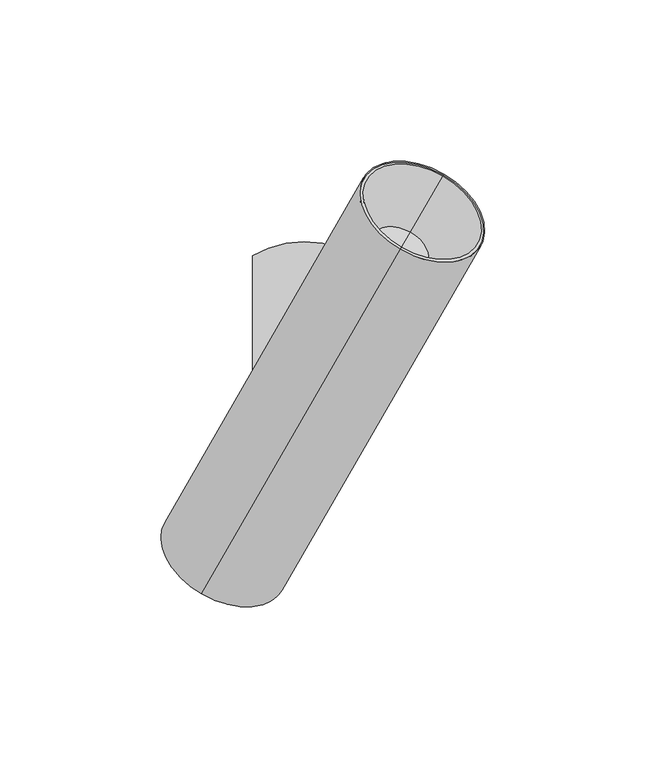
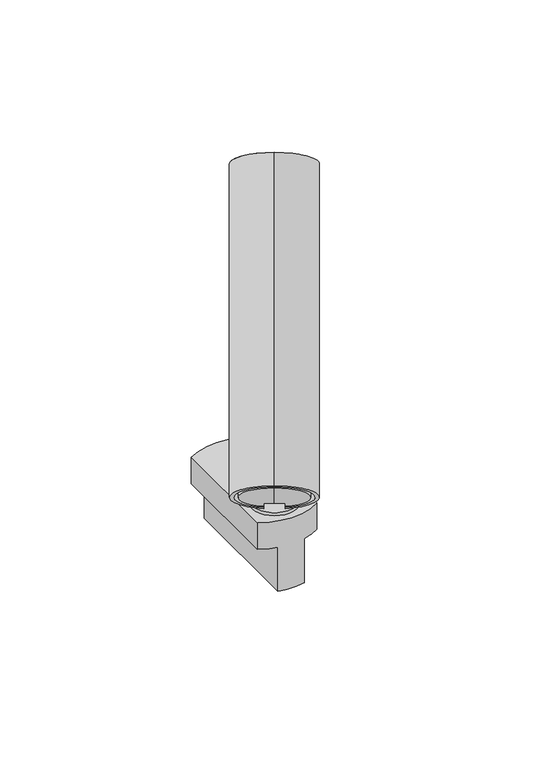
"""IFC4 building model written with IfcOpenShell, lengths in millimetres: light fixture geometry, PIPES T XS : 490lm 7,8W 930 38°."""

from ifc_helpers import new_model, si_unit, point, frame, frame_2d, origin, origin_2d, place, context, project, spatial, polyline, circle_curve, trimmed, segment, composite_curve, outline, extrude, source, transform, mapped, element, save
from ifc_brep_helpers import plane_surface, cylinder_surface, revolved_surface, advanced_brep


def light_fixture_c1229501(model_context):
    return source(origin(), model_context, "Body", "SolidModel", [
        extrude(outline(composite_curve([segment(polyline([(39.7303383, 0.0), (39.7303383, -8.0), (36.7303383, -8.0), (36.7303383, -10.0), (-21.31827, -10.0), (-21.31827, -2.0)]), True, "CONTINUOUS"), segment(trimmed(circle_curve(frame_2d((-15.691322, -2.0)), 5.626948), [point((-21.31827, -2.0))], [point((-15.691322, 3.626948))], False, "CARTESIAN"), True, "CONTINUOUS"), segment(polyline([(-15.691322, 3.626948), (-9.8735653, 3.626948)]), True, "CONTINUOUS"), segment(trimmed(circle_curve(frame_2d((-17.7182036, -2.2388678)), 9.7952104), [point((-9.8735653, 3.626948))], [point((-8.1822916, 0.0))], False, "CARTESIAN"), True, "CONTINUOUS"), segment(polyline([(-8.1822916, 0.0), (39.7303383, 0.0)]), True, "CONTINUOUS")], self_intersect=False)), frame((1.830127, -6.830127, 56.5303383), z_axis=(-0.8660254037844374, 0.5000000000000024, 0.0), x_axis=(0.0, 0.0, -1.0)), (0.0, 0.0, 1.0), 10.0),
        extrude(outline(composite_curve([segment(trimmed(circle_curve(origin_2d(), 12.5), [point((-10.8253175, 6.25))], [point((10.8253175, -6.25))], False, "CARTESIAN"), True, "CONTINUOUS"), segment(trimmed(circle_curve(origin_2d(), 12.5), [point((10.8253175, -6.25))], [point((-10.8253175, 6.25))], False, "CARTESIAN"), True, "CONTINUOUS")], self_intersect=False)), frame((0.0, 0.0, 15.0), z_axis=(0.0, 0.0, 1.0), x_axis=(1.0, 0.0, 0.0)), (0.0, 0.0, 1.0), 1.8),
        advanced_brep(
        [(-7.1153658, -15.2862846, -25.0), (-7.1153658, 53.3498174, -25.0), (7.1153658, 53.3498174, -25.0), (7.1153658, -15.2862846, -25.0), (-16.1153658, 49.7317664, 15.0), (-16.1153658, -11.6682336, 15.0), (16.1153658, -11.6682336, 15.0), (16.1153658, 49.7317664, 15.0), (-16.1153658, 49.7317664, 0.0), (-16.1153658, -11.6682336, 0.0), (-7.1153658, -15.2862846, 0.0), (7.1153658, -15.2862846, 0.0), (16.1153658, -11.6682336, 0.0), (16.1153658, 49.7317664, 0.0), (7.1153658, 53.3498174, 0.0), (-7.1153658, 53.3498174, 0.0)],
        [
            (0, 1),
            (1, 2, circle_curve(frame((0.0, 22.6472542, -25.0), z_axis=(0.0, 0.0, -1.0), x_axis=(1.0, 0.0, 0.0)), 31.5162786)),
            (2, 3),
            (3, 0, circle_curve(frame((0.0, 15.4162786, -25.0), z_axis=(0.0, 0.0, -1.0), x_axis=(1.0, 0.0, 0.0)), 31.5162786)),
            (4, 5),
            (5, 6, circle_curve(frame((0.0, 15.4162786, 15.0), z_axis=(0.0, 0.0, 1.0), x_axis=(1.0, 0.0, 0.0)), 31.5162786)),
            (6, 7),
            (7, 4, circle_curve(frame((0.0, 22.6472542, 15.0), z_axis=(0.0, 0.0, 1.0), x_axis=(1.0, 0.0, 0.0)), 31.5162786)),
            (4, 8),
            (8, 9),
            (9, 5),
            (9, 10, circle_curve(frame((0.0, 15.4162786, 0.0), z_axis=(0.0, 0.0, 1.0), x_axis=(1.0, 0.0, 0.0)), 31.5162786)),
            (10, 0),
            (3, 11),
            (11, 12, circle_curve(frame((0.0, 15.4162786, 0.0), z_axis=(0.0, 0.0, 1.0), x_axis=(1.0, 0.0, 0.0)), 31.5162786)),
            (12, 6),
            (12, 13),
            (13, 7),
            (13, 14, circle_curve(frame((0.0, 22.6472542, 0.0), z_axis=(0.0, 0.0, 1.0), x_axis=(1.0, 0.0, 0.0)), 31.5162786)),
            (14, 2),
            (1, 15),
            (15, 8, circle_curve(frame((0.0, 22.6472542, 0.0), z_axis=(0.0, 0.0, 1.0), x_axis=(1.0, 0.0, 0.0)), 31.5162786)),
            (15, 10),
            (11, 14),
        ],
        [
            plane_surface(frame((-16.1153658, -11.6883244, -25.0), z_axis=(0.0, 0.0, -1.0), x_axis=(0.0, 1.0, 0.0))),
            plane_surface(frame((-16.1153658, -11.6883244, 15.0), z_axis=(0.0, 0.0, 1.0), x_axis=(0.0, -1.0, 0.0))),
            plane_surface(frame((-16.1153658, 49.7317664, 15.0), z_axis=(-1.0, 0.0, 0.0), x_axis=(0.0, 0.0, -1.0))),
            cylinder_surface(frame((0.0, 15.4162786, -25.0), z_axis=(0.0, 0.0, 1.0), x_axis=(1.0, 0.0, 0.0)), 31.5162786),
            plane_surface(frame((16.1153658, -11.6682336, 15.0), z_axis=(1.0, 0.0, 0.0), x_axis=(0.0, 0.0, -1.0))),
            cylinder_surface(frame((0.0, 22.6472542, -25.0), z_axis=(0.0, 0.0, 1.0), x_axis=(1.0, 0.0, 0.0)), 31.5162786),
            plane_surface(frame((-7.1153658, 58.6979838, 0.0), z_axis=(0.0, 0.0, -1.0), x_axis=(-1.0, 0.0, 0.0))),
            plane_surface(frame((-7.1153658, -21.3020162, 0.0), z_axis=(-1.0, 0.0, 0.0), x_axis=(0.0, 0.0, -1.0))),
            plane_surface(frame((7.1153658, -11.6883244, 0.0), z_axis=(0.0, 0.0, -1.0), x_axis=(0.0, -1.0, 0.0))),
            plane_surface(frame((7.1153658, 58.6979838, 0.0), z_axis=(1.0, 0.0, 0.0), x_axis=(0.0, 0.0, -1.0))),
        ],
        [
            (0, [[1, 2, 3, 4]]),
            (1, [[5, 6, 7, 8]]),
            (2, [[-5, 9, 10, 11]]),
            (3, [[-6, -11, 12, 13, -4, 14, 15, 16]]),
            (4, [[-7, -16, 17, 18]]),
            (5, [[-8, -18, 19, 20, -2, 21, 22, -9]]),
            (6, [[23, -12, -10, -22]]),
            (7, [[-23, -21, -1, -13]]),
            (8, [[24, -19, -17, -15]]),
            (9, [[-24, -14, -3, -20]]),
        ],
    ),
        advanced_brep(
        [(-4.0219849, 3.0337177, 80.0441603), (-23.5561182, -30.8003936, 47.2619922), (-21.2002043, -26.719831, 41.6466545), (-23.4983377, -30.7003147, 37.7899288), (-22.8344103, -29.5503588, 36.2074531), (-1.0021437, 8.2642363, 72.8463469), (4.6382691, -1.9662823, 80.0441603), (7.6581104, 3.2642363, 72.8463469), (-14.1741562, -34.5503588, 36.2074531), (-14.8380836, -35.7003147, 37.7899288), (-12.5399503, -31.719831, 41.6466545), (-14.8958642, -35.8003936, 47.2619922), (-19.2259912, -33.3003936, 47.2619922), (3.5220801, 6.1004217, 72.3837158), (43.3563912, 75.0954723, 139.2336272), (29.8578514, 51.7153156, 171.4074939), (-31.8087263, -55.0943301, 67.9186887), (-31.1659387, -53.9809893, 66.3865998), (-28.8678054, -50.0005056, 70.2433255), (-22.7613231, -39.423768, 55.688481), (26.3072721, 45.5655319, 151.0894342), (32.7351482, 56.6989399, 135.7685453), (29.5212102, 51.1322359, 143.4289898)],
        [
            (0, 1),
            (1, 2),
            (2, 3),
            (3, 4),
            (4, 5),
            (5, 0),
            (6, 7),
            (7, 8),
            (8, 9),
            (9, 10),
            (10, 11),
            (11, 6),
            (0, 6),
            (11, 12),
            (12, 1),
            (5, 13, circle_curve(frame((-3.2271898, -5.5896566, 88.4706491), z_axis=(-0.38302222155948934, -0.6634139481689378, -0.6427876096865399), x_axis=(0.3213938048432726, 0.5566703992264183, -0.7660444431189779)), 21.0)),
            (13, 7, circle_curve(frame((-3.2271898, -5.5896566, 88.4706491), z_axis=(-0.38302222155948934, -0.6634139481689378, -0.6427876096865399), x_axis=(0.3213938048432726, 0.5566703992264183, -0.7660444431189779)), 21.0)),
            (14, 15, circle_curve(frame((36.6071213, 63.405394, 155.3205605), z_axis=(-0.38302222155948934, -0.6634139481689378, -0.6427876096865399), x_axis=(0.3213938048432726, 0.5566703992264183, -0.7660444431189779)), 21.0)),
            (15, 16),
            (16, 8, circle_curve(frame((-25.0594564, -43.4042517, 51.8317554), z_axis=(0.38302222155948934, 0.6634139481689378, 0.6427876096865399), x_axis=(0.3213938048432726, 0.5566703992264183, -0.7660444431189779)), 21.0)),
            (13, 14),
            (15, 14, circle_curve(frame((36.6071213, 63.405394, 155.3205605), z_axis=(-0.38302222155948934, -0.6634139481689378, -0.6427876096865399), x_axis=(0.3213938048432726, 0.5566703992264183, -0.7660444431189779)), 21.0)),
            (4, 16, circle_curve(frame((-25.0594564, -43.4042517, 51.8317554), z_axis=(0.38302222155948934, 0.6634139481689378, 0.6427876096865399), x_axis=(0.3213938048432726, 0.5566703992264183, -0.7660444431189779)), 21.0)),
            (16, 17),
            (17, 9, circle_curve(frame((-25.0594564, -43.4042517, 51.8317554), z_axis=(0.38302222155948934, 0.6634139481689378, 0.6427876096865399), x_axis=(0.3213938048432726, 0.5566703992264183, -0.7660444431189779)), 19.0)),
            (3, 17, circle_curve(frame((-25.0594564, -43.4042517, 51.8317554), z_axis=(0.38302222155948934, 0.6634139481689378, 0.6427876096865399), x_axis=(0.3213938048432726, 0.5566703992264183, -0.7660444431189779)), 19.0)),
            (17, 18),
            (18, 10, circle_curve(frame((-22.7613231, -39.423768, 55.688481), z_axis=(0.38302222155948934, 0.6634139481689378, 0.6427876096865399), x_axis=(0.3213938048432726, 0.5566703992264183, -0.7660444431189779)), 19.0)),
            (2, 18, circle_curve(frame((-22.7613231, -39.423768, 55.688481), z_axis=(0.38302222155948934, 0.6634139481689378, 0.6427876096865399), x_axis=(0.3213938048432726, 0.5566703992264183, -0.7660444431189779)), 19.0)),
            (18, 19),
            (19, 12),
            (20, 21, circle_curve(frame((29.5212102, 51.1322359, 143.4289898), z_axis=(0.38302222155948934, 0.6634139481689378, 0.6427876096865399), x_axis=(0.3213938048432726, 0.5566703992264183, -0.7660444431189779)), 10.0)),
            (21, 22),
            (22, 20),
            (21, 20, circle_curve(frame((29.5212102, 51.1322359, 143.4289898), z_axis=(0.38302222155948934, 0.6634139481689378, 0.6427876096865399), x_axis=(0.3213938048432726, 0.5566703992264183, -0.7660444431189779)), 10.0)),
            (14, 21),
            (20, 15),
        ],
        [
            plane_surface(frame((-4.0219849, 3.0337177, 80.0441603), z_axis=(0.8660254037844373, -0.5000000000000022, 0.0), x_axis=(0.3830222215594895, 0.6634139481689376, 0.6427876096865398))),
            plane_surface(frame((4.6382691, -1.9662823, 80.0441603), z_axis=(-0.8660254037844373, 0.5000000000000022, 0.0), x_axis=(-0.3830222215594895, -0.6634139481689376, -0.6427876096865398))),
            plane_surface(frame((4.6382691, -1.9662823, 80.0441603), z_axis=(0.3213938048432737, 0.5566703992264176, -0.7660444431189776), x_axis=(-0.8660254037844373, 0.5000000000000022, 0.0))),
            plane_surface(frame((11.0661452, 9.1671257, 64.7232714), z_axis=(-0.38302222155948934, -0.6634139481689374, -0.6427876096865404), x_axis=(-0.8660254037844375, 0.5000000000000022, 0.0))),
            cylinder_surface(frame((-28.2969061, -49.0116791, 46.3986696), z_axis=(-0.38302222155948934, -0.6634139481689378, -0.6427876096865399), x_axis=(0.3213938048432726, 0.5566703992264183, -0.7660444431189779)), 21.0),
            plane_surface(frame((-25.0594564, -43.4042517, 51.8317554), z_axis=(-0.38302222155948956, -0.6634139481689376, -0.6427876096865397), x_axis=(0.32139380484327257, 0.5566703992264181, -0.7660444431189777))),
            revolved_surface(polyline([(-18.952974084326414, -32.827514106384, 37.27691091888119), (-16.65484072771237, -28.84703037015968, 41.13363662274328)]), (-28.2969061, -49.0116791, 46.3986696), (-0.38302222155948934, -0.6634139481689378, -0.6427876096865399)),
            revolved_surface(polyline([(-18.952974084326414, -32.827514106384, 37.27691091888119), (-16.654840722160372, -28.84703036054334, 41.13363663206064)]), (-28.2969061, -49.0116791, 46.3986696), (-0.38302222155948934, -0.6634139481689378, -0.6427876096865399)),
            plane_surface(frame((-22.7613231, -39.423768, 55.688481), z_axis=(-0.38302222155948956, -0.6634139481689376, -0.6427876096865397), x_axis=(0.32139380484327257, 0.5566703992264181, -0.7660444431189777))),
            plane_surface(frame((29.5212102, 51.1322359, 143.4289898), z_axis=(0.38302222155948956, 0.6634139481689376, 0.6427876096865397), x_axis=(0.32139380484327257, 0.5566703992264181, -0.7660444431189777))),
            revolved_surface(polyline([(32.7351482, 56.6989399, 135.7685453), (43.3563912, 75.0954723, 139.2336272)]), (-28.2969061, -49.0116791, 46.3986696), (-0.38302222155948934, -0.6634139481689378, -0.6427876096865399)),
        ],
        [
            (0, [[1, 2, 3, 4, 5, 6]]),
            (1, [[7, 8, 9, 10, 11, 12]]),
            (2, [[13, -12, 14, 15, -1]]),
            (3, [[-13, -6, 16, 17, -7]]),
            (4, [[18, 19, 20, -8, -17, 21]]),
            (4, [[-19, 22, -21, -16, -5, 23]]),
            (5, [[24, 25, -9, -20]]),
            (5, [[-24, -23, -4, 26]]),
            (6, [[27, 28, -10, -25]]),
            (7, [[-27, -26, -3, 29]]),
            (8, [[30, 31, -14, -11, -28]]),
            (8, [[-30, -29, -2, -15, -31]]),
            (9, [[32, 33, 34]]),
            (9, [[-33, 35, -34]]),
            (10, [[-18, 36, -32, 37]]),
            (10, [[-22, -37, -35, -36]]),
        ],
    ),
        advanced_brep(
        [(-25.0882071, -33.4540494, 44.6908417), (-25.8542516, -34.7808773, 43.4052665), (-24.1696897, -31.8631306, 39.3901013), (-23.4036453, -30.5363027, 40.6756765), (-17.1939975, -39.7808773, 43.4052665), (-16.4279531, -38.4540494, 44.6908417), (-14.7433913, -35.5363027, 40.6756765), (-15.5094357, -36.8631306, 39.3901013), (-20.7580801, -35.9540494, 44.6908417), (-21.5241245, -37.2808773, 43.4052665), (-24.293412, -42.0774238, 53.1173306), (-29.7550637, -51.537282, 66.1352167), (-30.5211081, -52.8641099, 64.8496415), (-25.0594564, -43.4042517, 51.8317554)],
        [
            (0, 1),
            (1, 2),
            (2, 3),
            (3, 0),
            (4, 5),
            (5, 6),
            (6, 7),
            (7, 4),
            (0, 8),
            (8, 5),
            (4, 9),
            (9, 1),
            (10, 11),
            (11, 6, circle_curve(frame((-24.293412, -42.0774238, 53.1173306), z_axis=(0.3830222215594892, 0.6634139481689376, 0.6427876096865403), x_axis=(0.3213938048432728, 0.5566703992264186, -0.7660444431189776)), 16.9936434)),
            (8, 10),
            (3, 11, circle_curve(frame((-24.293412, -42.0774238, 53.1173306), z_axis=(0.3830222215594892, 0.6634139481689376, 0.6427876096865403), x_axis=(0.3213938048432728, 0.5566703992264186, -0.7660444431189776)), 16.9936434)),
            (11, 12),
            (12, 7, circle_curve(frame((-25.0594564, -43.4042517, 51.8317554), z_axis=(0.3830222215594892, 0.6634139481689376, 0.6427876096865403), x_axis=(0.3213938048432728, 0.5566703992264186, -0.7660444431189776)), 16.9936434)),
            (2, 12, circle_curve(frame((-25.0594564, -43.4042517, 51.8317554), z_axis=(0.3830222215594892, 0.6634139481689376, 0.6427876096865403), x_axis=(0.3213938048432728, 0.5566703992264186, -0.7660444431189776)), 16.9936434)),
            (12, 13),
            (13, 9),
        ],
        [
            plane_surface(frame((-4.0219849, 3.0337177, 80.0441603), z_axis=(0.8660254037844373, -0.5000000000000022, 0.0), x_axis=(0.3830222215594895, 0.6634139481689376, 0.6427876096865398))),
            plane_surface(frame((4.6382691, -1.9662823, 80.0441603), z_axis=(-0.8660254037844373, 0.5000000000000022, 0.0), x_axis=(-0.3830222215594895, -0.6634139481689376, -0.6427876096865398))),
            plane_surface(frame((4.6382691, -1.9662823, 80.0441603), z_axis=(0.3213938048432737, 0.5566703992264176, -0.7660444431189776), x_axis=(-0.8660254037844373, 0.5000000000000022, 0.0))),
            plane_surface(frame((-24.293412, -42.0774238, 53.1173306), z_axis=(0.3830222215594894, 0.6634139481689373, 0.64278760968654), x_axis=(0.32139380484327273, 0.5566703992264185, -0.7660444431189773))),
            cylinder_surface(frame((25.517716, 44.1979806, 136.7103288), z_axis=(-0.3830222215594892, -0.6634139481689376, -0.6427876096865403), x_axis=(0.3213938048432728, 0.5566703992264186, -0.7660444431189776)), 16.9936434),
            plane_surface(frame((-25.0594564, -43.4042517, 51.8317554), z_axis=(-0.3830222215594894, -0.6634139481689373, -0.64278760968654), x_axis=(0.32139380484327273, 0.5566703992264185, -0.7660444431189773))),
        ],
        [
            (0, [[1, 2, 3, 4]]),
            (1, [[5, 6, 7, 8]]),
            (2, [[-1, 9, 10, -5, 11, 12]]),
            (3, [[13, 14, -6, -10, 15]]),
            (3, [[-13, -15, -9, -4, 16]]),
            (4, [[17, 18, -7, -14]]),
            (4, [[-17, -16, -3, 19]]),
            (5, [[20, 21, -11, -8, -18]]),
            (5, [[-20, -19, -2, -12, -21]]),
        ],
    ),
        advanced_brep(
        [(26.8731108, 46.5455933, 151.2964774), (32.9353539, 57.0457064, 136.8470774), (29.9042324, 51.7956499, 144.0717774), (30.2317669, 52.3629563, 170.5162635), (42.9824757, 74.4478317, 140.1248576), (29.8578514, 51.7153156, 171.4074939), (43.3563912, 75.0954723, 139.2336272), (26.3072721, 45.5655319, 151.0894342), (32.7351482, 56.6989399, 135.7685453), (29.5212102, 51.1322359, 143.4289898)],
        [
            (0, 1, circle_curve(frame((29.9042324, 51.7956499, 144.0717774), z_axis=(0.38302222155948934, 0.6634139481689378, 0.6427876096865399), x_axis=(0.3213938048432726, 0.5566703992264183, -0.7660444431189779)), 9.431176)),
            (1, 2),
            (2, 0),
            (1, 0, circle_curve(frame((29.9042324, 51.7956499, 144.0717774), z_axis=(0.38302222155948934, 0.6634139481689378, 0.6427876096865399), x_axis=(0.3213938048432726, 0.5566703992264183, -0.7660444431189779)), 9.431176)),
            (3, 4, circle_curve(frame((36.6071213, 63.405394, 155.3205605), z_axis=(0.38302222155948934, 0.6634139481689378, 0.6427876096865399), x_axis=(0.3213938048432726, 0.5566703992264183, -0.7660444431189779)), 19.8365814)),
            (4, 1),
            (0, 3),
            (4, 3, circle_curve(frame((36.6071213, 63.405394, 155.3205605), z_axis=(0.38302222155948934, 0.6634139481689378, 0.6427876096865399), x_axis=(0.3213938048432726, 0.5566703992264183, -0.7660444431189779)), 19.8365814)),
            (5, 6, circle_curve(frame((36.6071213, 63.405394, 155.3205605), z_axis=(0.38302222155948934, 0.6634139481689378, 0.6427876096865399), x_axis=(0.3213938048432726, 0.5566703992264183, -0.7660444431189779)), 21.0)),
            (6, 4),
            (3, 5),
            (6, 5, circle_curve(frame((36.6071213, 63.405394, 155.3205605), z_axis=(0.38302222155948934, 0.6634139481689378, 0.6427876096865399), x_axis=(0.3213938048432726, 0.5566703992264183, -0.7660444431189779)), 21.0)),
            (7, 8, circle_curve(frame((29.5212102, 51.1322359, 143.4289898), z_axis=(0.38302222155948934, 0.6634139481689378, 0.6427876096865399), x_axis=(0.3213938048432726, 0.5566703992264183, -0.7660444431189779)), 10.0)),
            (8, 6),
            (5, 7),
            (8, 7, circle_curve(frame((29.5212102, 51.1322359, 143.4289898), z_axis=(0.38302222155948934, 0.6634139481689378, 0.6427876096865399), x_axis=(0.3213938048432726, 0.5566703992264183, -0.7660444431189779)), 10.0)),
            (9, 8),
            (7, 9),
        ],
        [
            plane_surface(frame((29.9042324, 51.7956499, 144.0717774), z_axis=(0.38302222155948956, 0.6634139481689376, 0.6427876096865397), x_axis=(0.32139380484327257, 0.5566703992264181, -0.7660444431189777))),
            revolved_surface(polyline([(32.9353539, 57.0457064, 136.8470774), (42.9824757, 74.4478317, 140.1248576)]), (-35.9573506, -62.2799581, 33.5429174), (-0.38302222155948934, -0.6634139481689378, -0.6427876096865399)),
            plane_surface(frame((36.6071213, 63.405394, 155.3205605), z_axis=(0.38302222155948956, 0.6634139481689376, 0.6427876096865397), x_axis=(0.32139380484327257, 0.5566703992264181, -0.7660444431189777))),
            revolved_surface(polyline([(43.3563912, 75.0954723, 139.2336272), (32.7351482, 56.6989399, 135.7685453)]), (-35.9573506, -62.2799581, 33.5429174), (-0.38302222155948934, -0.6634139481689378, -0.6427876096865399)),
            plane_surface(frame((29.5212102, 51.1322359, 143.4289898), z_axis=(-0.38302222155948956, -0.6634139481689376, -0.6427876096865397), x_axis=(0.32139380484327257, 0.5566703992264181, -0.7660444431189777))),
        ],
        [
            (0, [[1, 2, 3]]),
            (0, [[4, -3, -2]]),
            (1, [[5, 6, -1, 7]]),
            (1, [[8, -7, -4, -6]]),
            (2, [[9, 10, -5, 11]]),
            (2, [[12, -11, -8, -10]]),
            (3, [[13, 14, -9, 15]]),
            (3, [[16, -15, -12, -14]]),
            (4, [[17, -13, 18]]),
            (4, [[-18, -16, -17]]),
        ],
    ),
    ])


if __name__ == "__main__":
    model = new_model("IFC4")
    model_context = context("Model", 3, world=origin())
    ifc_project = project(units=[si_unit("LENGTHUNIT", "METRE", prefix="MILLI")], contexts=[model_context])
    site = spatial("IfcSite", under=ifc_project)
    building = spatial("IfcBuilding", under=site)
    placement = place(None, origin())
    light_fixture_shape = light_fixture_c1229501(model_context)
    element("IfcLightFixture", 1, ObjectType="PIPES T XS : 490lm 7,8W 930 38°", at=placement, inside=building, context=model_context, shape_type="MappedRepresentation", body=[
        mapped(light_fixture_shape, transform((0.0, 0.0, 0.0), x_axis=(1.0, 0.0, 0.0), y_axis=(0.0, 1.0, 0.0), z_axis=(0.0, 0.0, 1.0))),
    ])
    save(model, "model.ifc")
